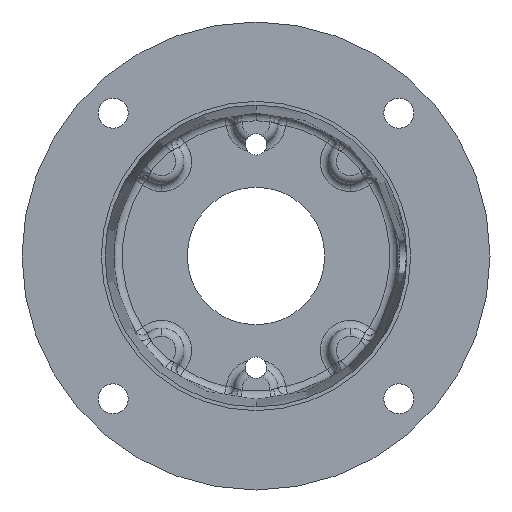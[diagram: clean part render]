
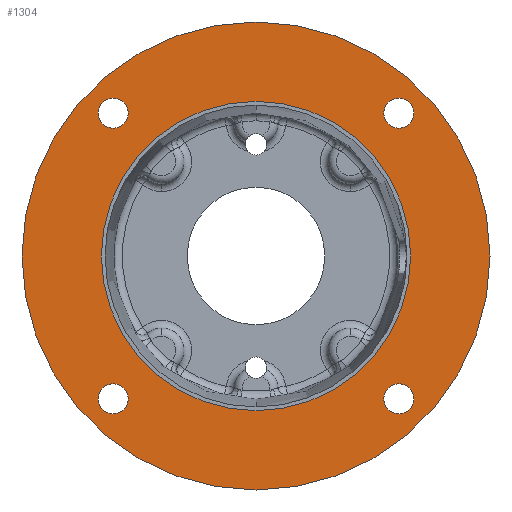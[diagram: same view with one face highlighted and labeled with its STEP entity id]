
A CAD part, front view. The second image highlights one B-rep face of the part: STEP entity #1304.
In plain terms, the highlighted planar face has unit normal (0, -1, 0).
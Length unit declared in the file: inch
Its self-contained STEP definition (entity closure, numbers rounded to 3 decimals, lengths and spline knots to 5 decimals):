
#451 = VERTEX_POINT ( 'NONE', #5985 ) ;
#488 = EDGE_CURVE ( 'NONE', #489, #490, #6043, .T. ) ;
#489 = VERTEX_POINT ( 'NONE', #6048 ) ;
#490 = VERTEX_POINT ( 'NONE', #6052 ) ;
#502 = EDGE_CURVE ( 'NONE', #503, #504, #6158, .T. ) ;
#503 = VERTEX_POINT ( 'NONE', #6125 ) ;
#504 = VERTEX_POINT ( 'NONE', #6194 ) ;
#511 = EDGE_CURVE ( 'NONE', #512, #451, #6191, .T. ) ;
#512 = VERTEX_POINT ( 'NONE', #6192 ) ;
#531 = EDGE_CURVE ( 'NONE', #532, #533, #6170, .T. ) ;
#532 = VERTEX_POINT ( 'NONE', #6165 ) ;
#533 = VERTEX_POINT ( 'NONE', #6164 ) ;
#613 = VERTEX_POINT ( 'NONE', #2992 ) ;
#615 = EDGE_CURVE ( 'NONE', #616, #613, #2991, .T. ) ;
#616 = VERTEX_POINT ( 'NONE', #2993 ) ;
#622 = VERTEX_POINT ( 'NONE', #3027 ) ;
#705 = VERTEX_POINT ( 'NONE', #3425 ) ;
#816 = EDGE_CURVE ( 'NONE', #622, #705, #6512, .T. ) ;
#1265 = ORIENTED_EDGE ( 'NONE', *, *, #615, .T. ) ;
#1266 = ORIENTED_EDGE ( 'NONE', *, *, #1403, .T. ) ;
#1290 = ORIENTED_EDGE ( 'NONE', *, *, #816, .F. ) ;
#1291 = EDGE_LOOP ( 'NONE', ( #1320, #1322 ) ) ;
#1292 = ORIENTED_EDGE ( 'NONE', *, *, #1293, .T. ) ;
#1293 = EDGE_CURVE ( 'NONE', #533, #532, #5148, .T. ) ;
#1294 = ORIENTED_EDGE ( 'NONE', *, *, #531, .T. ) ;
#1295 = EDGE_LOOP ( 'NONE', ( #1265, #1266 ) ) ;
#1297 = EDGE_LOOP ( 'NONE', ( #1298, #1290 ) ) ;
#1298 = ORIENTED_EDGE ( 'NONE', *, *, #1299, .F. ) ;
#1299 = EDGE_CURVE ( 'NONE', #705, #622, #5160, .T. ) ;
#1304 = ADVANCED_FACE ( 'NONE', ( #5179, #5178, #5177, #5176, #5182, #5181 ), #5180, .F. ) ;
#1320 = ORIENTED_EDGE ( 'NONE', *, *, #1321, .T. ) ;
#1321 = EDGE_CURVE ( 'NONE', #451, #512, #5272, .T. ) ;
#1322 = ORIENTED_EDGE ( 'NONE', *, *, #511, .T. ) ;
#1323 = EDGE_LOOP ( 'NONE', ( #1324, #1326 ) ) ;
#1324 = ORIENTED_EDGE ( 'NONE', *, *, #1325, .T. ) ;
#1325 = EDGE_CURVE ( 'NONE', #490, #489, #5224, .T. ) ;
#1326 = ORIENTED_EDGE ( 'NONE', *, *, #488, .T. ) ;
#1327 = EDGE_LOOP ( 'NONE', ( #1328, #1330 ) ) ;
#1328 = ORIENTED_EDGE ( 'NONE', *, *, #1329, .T. ) ;
#1329 = EDGE_CURVE ( 'NONE', #504, #503, #5230, .T. ) ;
#1330 = ORIENTED_EDGE ( 'NONE', *, *, #502, .T. ) ;
#1332 = EDGE_LOOP ( 'NONE', ( #1292, #1294 ) ) ;
#1403 = EDGE_CURVE ( 'NONE', #613, #616, #5416, .T. ) ;
#2990 = AXIS2_PLACEMENT_3D ( 'NONE', #2996, #2995, #2994 ) ;
#2991 = CIRCLE ( 'NONE', #2990, 3.405 ) ;
#2992 = CARTESIAN_POINT ( 'NONE',  ( 0., 0., 3.405 ) ) ;
#2993 = CARTESIAN_POINT ( 'NONE',  ( 0., 0., -3.405 ) ) ;
#2994 = DIRECTION ( 'NONE',  ( 0., 0., -1. ) ) ;
#2995 = DIRECTION ( 'NONE',  ( 0., -1., 0. ) ) ;
#2996 = CARTESIAN_POINT ( 'NONE',  ( 0., 0., 0. ) ) ;
#3027 = CARTESIAN_POINT ( 'NONE',  ( 0., 0., 2.2505 ) ) ;
#3425 = CARTESIAN_POINT ( 'NONE',  ( 0., 0., -2.2505 ) ) ;
#5148 = CIRCLE ( 'NONE', #5153, 0.21875 ) ;
#5150 = DIRECTION ( 'NONE',  ( 0., 0., 1. ) ) ;
#5151 = DIRECTION ( 'NONE',  ( 0., 1., 0. ) ) ;
#5152 = CARTESIAN_POINT ( 'NONE',  ( 2.07889, 0., 2.07889 ) ) ;
#5153 = AXIS2_PLACEMENT_3D ( 'NONE', #5152, #5151, #5150 ) ;
#5156 = CARTESIAN_POINT ( 'NONE',  ( 0., 0., 0. ) ) ;
#5158 = DIRECTION ( 'NONE',  ( 0., -1., 0. ) ) ;
#5159 = AXIS2_PLACEMENT_3D ( 'NONE', #5156, #5158, #5164 ) ;
#5160 = CIRCLE ( 'NONE', #5159, 2.2505 ) ;
#5164 = DIRECTION ( 'NONE',  ( 0., 0., -1. ) ) ;
#5174 = CARTESIAN_POINT ( 'NONE',  ( -2.20315, 0., 0. ) ) ;
#5176 = FACE_BOUND ( 'NONE', #1327, .T. ) ;
#5177 = FACE_BOUND ( 'NONE', #1323, .T. ) ;
#5178 = FACE_BOUND ( 'NONE', #1291, .T. ) ;
#5179 = FACE_BOUND ( 'NONE', #1297, .T. ) ;
#5180 = PLANE ( 'NONE',  #5183 ) ;
#5181 = FACE_OUTER_BOUND ( 'NONE', #1295, .T. ) ;
#5182 = FACE_BOUND ( 'NONE', #1332, .T. ) ;
#5183 = AXIS2_PLACEMENT_3D ( 'NONE', #5174, #5186, #5185 ) ;
#5185 = DIRECTION ( 'NONE',  ( 0., 0., 1. ) ) ;
#5186 = DIRECTION ( 'NONE',  ( 0., 1., 0. ) ) ;
#5224 = CIRCLE ( 'NONE', #5229, 0.21875 ) ;
#5225 = CARTESIAN_POINT ( 'NONE',  ( -2.07889, 0., 2.07889 ) ) ;
#5226 = DIRECTION ( 'NONE',  ( 0., 0., 1. ) ) ;
#5227 = DIRECTION ( 'NONE',  ( 0., 1., 0. ) ) ;
#5228 = CARTESIAN_POINT ( 'NONE',  ( -2.07889, 0., -2.07889 ) ) ;
#5229 = AXIS2_PLACEMENT_3D ( 'NONE', #5228, #5227, #5226 ) ;
#5230 = CIRCLE ( 'NONE', #5237, 0.21875 ) ;
#5235 = DIRECTION ( 'NONE',  ( 0., 0., 1. ) ) ;
#5236 = DIRECTION ( 'NONE',  ( 0., 1., 0. ) ) ;
#5237 = AXIS2_PLACEMENT_3D ( 'NONE', #5225, #5236, #5235 ) ;
#5267 = DIRECTION ( 'NONE',  ( 0., 1., 0. ) ) ;
#5271 = CARTESIAN_POINT ( 'NONE',  ( 2.07889, 0., -2.07889 ) ) ;
#5272 = CIRCLE ( 'NONE', #5274, 0.21875 ) ;
#5273 = DIRECTION ( 'NONE',  ( 0., 0., 1. ) ) ;
#5274 = AXIS2_PLACEMENT_3D ( 'NONE', #5271, #5267, #5273 ) ;
#5296 = DIRECTION ( 'NONE',  ( 0., 0., -1. ) ) ;
#5297 = DIRECTION ( 'NONE',  ( 0., -1., 0. ) ) ;
#5298 = CARTESIAN_POINT ( 'NONE',  ( 0., 0., 0. ) ) ;
#5299 = AXIS2_PLACEMENT_3D ( 'NONE', #5298, #5297, #5296 ) ;
#5416 = CIRCLE ( 'NONE', #5299, 3.405 ) ;
#5985 = CARTESIAN_POINT ( 'NONE',  ( 2.07889, 0., -1.86014 ) ) ;
#6036 = CARTESIAN_POINT ( 'NONE',  ( -2.07889, 0., -2.07889 ) ) ;
#6040 = DIRECTION ( 'NONE',  ( 0., 0., 1. ) ) ;
#6041 = DIRECTION ( 'NONE',  ( 0., 1., 0. ) ) ;
#6042 = AXIS2_PLACEMENT_3D ( 'NONE', #6036, #6041, #6040 ) ;
#6043 = CIRCLE ( 'NONE', #6042, 0.21875 ) ;
#6048 = CARTESIAN_POINT ( 'NONE',  ( -2.07889, 0., -2.29764 ) ) ;
#6052 = CARTESIAN_POINT ( 'NONE',  ( -2.07889, 0., -1.86014 ) ) ;
#6125 = CARTESIAN_POINT ( 'NONE',  ( -2.07889, 0., 1.86014 ) ) ;
#6133 = DIRECTION ( 'NONE',  ( 0., 0., 1. ) ) ;
#6134 = DIRECTION ( 'NONE',  ( 0., 1., 0. ) ) ;
#6135 = CARTESIAN_POINT ( 'NONE',  ( -2.07889, 0., 2.07889 ) ) ;
#6137 = AXIS2_PLACEMENT_3D ( 'NONE', #6135, #6134, #6133 ) ;
#6158 = CIRCLE ( 'NONE', #6137, 0.21875 ) ;
#6164 = CARTESIAN_POINT ( 'NONE',  ( 2.07889, 0., 2.29764 ) ) ;
#6165 = CARTESIAN_POINT ( 'NONE',  ( 2.07889, 0., 1.86014 ) ) ;
#6166 = DIRECTION ( 'NONE',  ( 0., 0., 1. ) ) ;
#6167 = DIRECTION ( 'NONE',  ( 0., 1., 0. ) ) ;
#6168 = CARTESIAN_POINT ( 'NONE',  ( 2.07889, 0., 2.07889 ) ) ;
#6169 = AXIS2_PLACEMENT_3D ( 'NONE', #6168, #6167, #6166 ) ;
#6170 = CIRCLE ( 'NONE', #6169, 0.21875 ) ;
#6187 = DIRECTION ( 'NONE',  ( 0., 0., 1. ) ) ;
#6188 = DIRECTION ( 'NONE',  ( 0., 1., 0. ) ) ;
#6189 = CARTESIAN_POINT ( 'NONE',  ( 2.07889, 0., -2.07889 ) ) ;
#6190 = AXIS2_PLACEMENT_3D ( 'NONE', #6189, #6188, #6187 ) ;
#6191 = CIRCLE ( 'NONE', #6190, 0.21875 ) ;
#6192 = CARTESIAN_POINT ( 'NONE',  ( 2.07889, 0., -2.29764 ) ) ;
#6194 = CARTESIAN_POINT ( 'NONE',  ( -2.07889, 0., 2.29764 ) ) ;
#6451 = DIRECTION ( 'NONE',  ( 0., 0., -1. ) ) ;
#6452 = DIRECTION ( 'NONE',  ( 0., -1., 0. ) ) ;
#6453 = CARTESIAN_POINT ( 'NONE',  ( 0., 0., 0. ) ) ;
#6511 = AXIS2_PLACEMENT_3D ( 'NONE', #6453, #6452, #6451 ) ;
#6512 = CIRCLE ( 'NONE', #6511, 2.2505 ) ;
